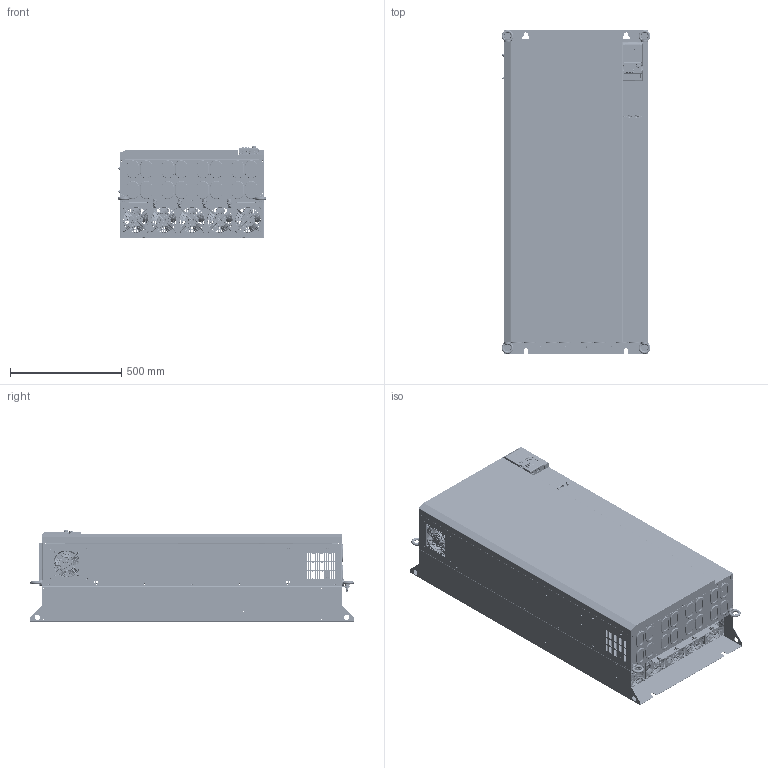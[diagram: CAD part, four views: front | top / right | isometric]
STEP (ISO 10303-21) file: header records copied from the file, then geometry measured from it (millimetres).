
FILE_DESCRIPTION((''),'2;1');
FILE_NAME('VFC5610-280K-3P4-MNA-7P-NNNNN-N','2023-03-27T16:04:28',('ZUX1XI'),(''),'CREO PARAMETRIC BY PTC INC, 2021072','CREO PARAMETRIC BY PTC INC, 2021072','');
FILE_SCHEMA(('AUTOMOTIVE_DESIGN { 1 0 10303 214 1 1 1 1 }'));
Products named in the file (104): SV5N_BASE_P1_A_4_1_1_1; SV5N_BASE_P1_A_4_1_1; SV5N_BASE_P2_A_3_1_1_1; SV5N_BASE_P2_A_3_1_1; SV5N_BASE_P3_A_3_1_1_1; SV5N_BASE_P3_A_3_1_1; SV5N_BASE_A_4_1_1; HOLDER_SV5N_HEATSINK_A_6_1_1_1; HOLDER_SV5N_HEATSINK_A_6_39_1_1; HOLDER_SV5N_HEATSINK_A_6_40_1_1; HOLDER_SV5N_HEATSINK_A_6_41_1_1; HOLDER_SV5N_HEATSINK_A_6_42_1_1; HOLDER_SV5N_HEATSINK_A_6_43_1_1; HOLDER_SV5N_HEATSINK_A_6_44_1_1; HOLDER_SV5N_HEATSINK_A_6_45_1_1; HOLDER_SV5N_HEATSINK_A_6_46_1_1; HOLDER_SV5N_HEATSINK_A_6_1_1; FAN_ADDA_AD1224UB-F51_1_1_1; E_FENGSHANZHAO_D120_1_1_1_1; E_FENGSHANZHAO_D120_1_2_1_1; E_FENGSHANZHAO_D120_1_3_1_1; E_FENGSHANZHAO_D120_1_4_1_1; E_FENGSHANZHAO_D120_1_5_1_1; E_FENGSHANZHAO_D120_1_6_1_1; E_FENGSHANZHAO_D120_1_7_1_1; E_FENGSHANZHAO_D120_1_8_1_1; E_FENGSHANZHAO_D120_1_9_1_1; E_FENGSHANZHAO_D120_1_10_1_1; E_FENGSHANZHAO_D120_1_1_1; HOLDER_SV5N_GND_A_4_1_1_1; HOLDER_SV5N_GND_A_4_6_1_1; HOLDER_SV5N_GND_A_4_7_1_1; HOLDER_SV5N_GND_A_4_8_1_1; HOLDER_SV5N_GND_A_4_9_1_1; HOLDER_SV5N_GND_A_4_10_1_1; HOLDER_SV5N_GND_A_4_11_1_1; HOLDER_SV5N_GND_A_4_12_1_1; HOLDER_SV5N_GND_A_4_13_1_1; HOLDER_SV5N_GND_A_4_14_1_1; HOLDER_SV5N_GND_A_4_15_1_1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
Assembly tree (169 placements, depth 9):
  VFC5610-280K-3P4-MNA-7P-NNNNN-N
    VFC5610-280K-3P4-MNA-7P-NNNNN_2
      VFC5610-280K-3P4-MNA-7P-NNNNN_1
        00_VFC5610_315KW_30_1_1
          SV5N_BASE_A_4_1_1
            SV5N_BASE_P1_A_4_1_1
              SV5N_BASE_P1_A_4_1_1_1
            SV5N_BASE_P2_A_3_1_1
              SV5N_BASE_P2_A_3_1_1_1
            SV5N_BASE_P3_A_3_1_1
              SV5N_BASE_P3_A_3_1_1_1
          HOLDER_SV5N_HEATSINK_A_6_1_1
            HOLDER_SV5N_HEATSINK_A_6_1_1_1
            HOLDER_SV5N_HEATSINK_A_6_39_1_1
            HOLDER_SV5N_HEATSINK_A_6_40_1_1
            HOLDER_SV5N_HEATSINK_A_6_41_1_1
            HOLDER_SV5N_HEATSINK_A_6_42_1_1
            HOLDER_SV5N_HEATSINK_A_6_43_1_1
            HOLDER_SV5N_HEATSINK_A_6_44_1_1
            HOLDER_SV5N_HEATSINK_A_6_45_1_1
            HOLDER_SV5N_HEATSINK_A_6_46_1_1
          FAN_ADDA_AD1224UB-F51_1_1_1  x6
          E_FENGSHANZHAO_D120_1_1_1  x6
            E_FENGSHANZHAO_D120_1_1_1_1
            E_FENGSHANZHAO_D120_1_2_1_1
            E_FENGSHANZHAO_D120_1_3_1_1
            E_FENGSHANZHAO_D120_1_4_1_1
            E_FENGSHANZHAO_D120_1_5_1_1
            E_FENGSHANZHAO_D120_1_6_1_1
            E_FENGSHANZHAO_D120_1_7_1_1
            E_FENGSHANZHAO_D120_1_8_1_1
            E_FENGSHANZHAO_D120_1_9_1_1
            E_FENGSHANZHAO_D120_1_10_1_1
          HOLDER_SV5N_GND_A_4_1_1
            HOLDER_SV5N_GND_A_4_1_1_1
            HOLDER_SV5N_GND_A_4_6_1_1
            HOLDER_SV5N_GND_A_4_7_1_1
            HOLDER_SV5N_GND_A_4_8_1_1
            HOLDER_SV5N_GND_A_4_9_1_1
            HOLDER_SV5N_GND_A_4_10_1_1
            HOLDER_SV5N_GND_A_4_11_1_1
            HOLDER_SV5N_GND_A_4_12_1_1
            HOLDER_SV5N_GND_A_4_13_1_1
            HOLDER_SV5N_GND_A_4_14_1_1
            HOLDER_SV5N_GND_A_4_15_1_1
            HOLDER_SV5N_GND_A_4_16_1_1
            HOLDER_SV5N_GND_A_4_17_1_1
          SV5N_BOTTOM_A_3_1_1
            SV5N_BOTTOM_P1_A_5_1_1
              SV5N_BOTTOM_P1_A_5_1_1_1
          HOUSING_HUXIANTAO_1_1_1  x16
          SV5N_RIGHT_A_8_1_1
            SV5N_RIGHT_P1_A_7_1_1
              SV5N_RIGHT_P1_A_7_1_1_1
            SV5N_RIGHT_P2_A_2_1_1
          SV5N_LEFT_A_6_1_1
            SV5N_LEFT_P1_A_11_1_1
              SV5N_LEFT_P1_A_11_1_1_1
          SV5N_TOP_A_5_1_1
          SV5N_TOP_COVER_A_1_1_1
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Bounding box: 669 x 1458 x 412.05 mm (x, y, z)
Volume: 9367969 mm3; surface area: 9479655.2 mm2
Topology: 185 solids, 191 shells, 20187 faces, 56278 edges, 36688 vertices
Faces by surface type: plane 8558, cylinder 7673, bspline 2076, torus 1084, cone 510, sphere 157, extrusion 129
Entity records: 458673 total; most frequent: CARTESIAN_POINT 109847, ORIENTED_EDGE 53552, DIRECTION 51693, PRESENTATION_STYLE_ASSIGNMENT 27950, STYLED_ITEM 26850, CURVE_STYLE 26776, EDGE_CURVE 26776, AXIS2_PLACEMENT_3D 17394
